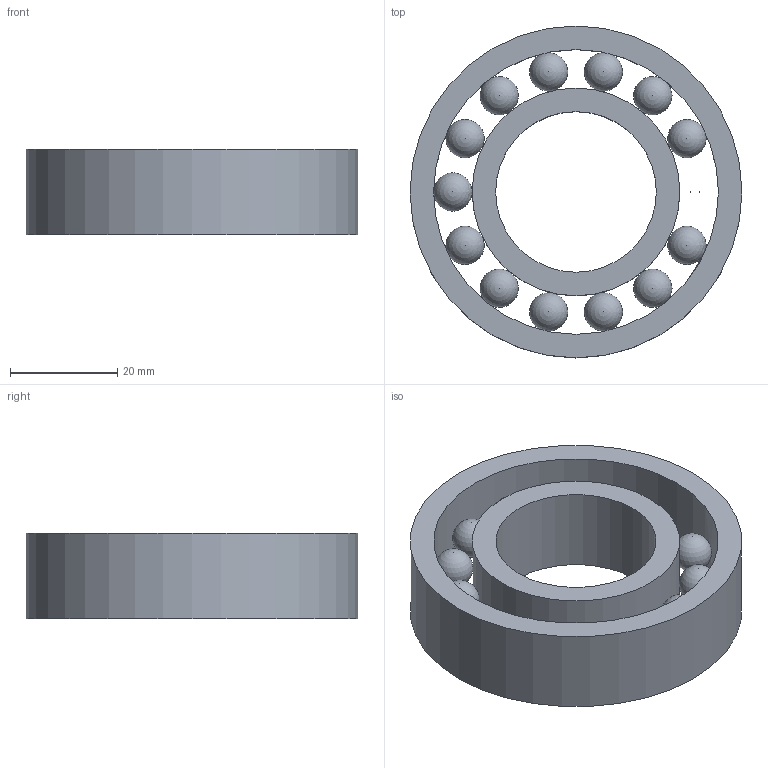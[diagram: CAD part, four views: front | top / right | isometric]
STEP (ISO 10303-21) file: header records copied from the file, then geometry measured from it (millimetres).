
FILE_DESCRIPTION(('Open CASCADE Model'),'2;1');
FILE_NAME('Open CASCADE Shape Model','2026-09-15T22:58:07',('Author'),( 'Open CASCADE'),'Open CASCADE STEP processor 7.9','build123d', 'Unknown');
FILE_SCHEMA(('AUTOMOTIVE_DESIGN { 1 0 10303 214 1 1 1 1 }'));
Length unit declared in the file: millimetre
Products named in the file (1): COMPOUND
Bounding box: 62 x 62 x 16 mm (x, y, z)
Volume: 23083.5 mm3; surface area: 14072.3 mm2
Topology: 13 solids, 13 shells, 22 faces, 61 edges, 41 vertices
Faces by surface type: sphere 14, cylinder 4, plane 4
Full cylindrical faces by diameter (mm): 30 x1, 38.8 x1, 53.2 x1, 62 x1
Entity records: 908 total; most frequent: CARTESIAN_POINT 328, DIRECTION 107, ORIENTED_EDGE 42, PCURVE 42, DEFINITIONAL_REPRESENTATION 42, AXIS2_PLACEMENT_3D 35, FACE_BOUND 30, LINE 29
